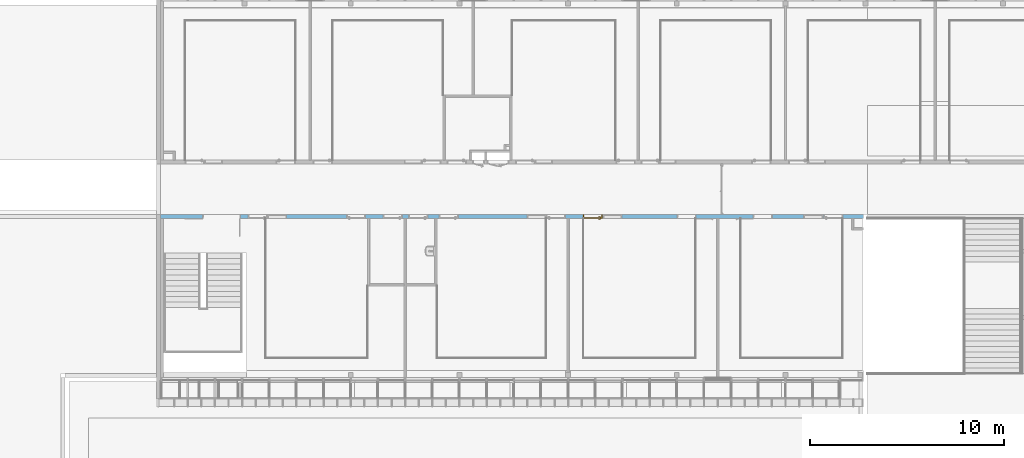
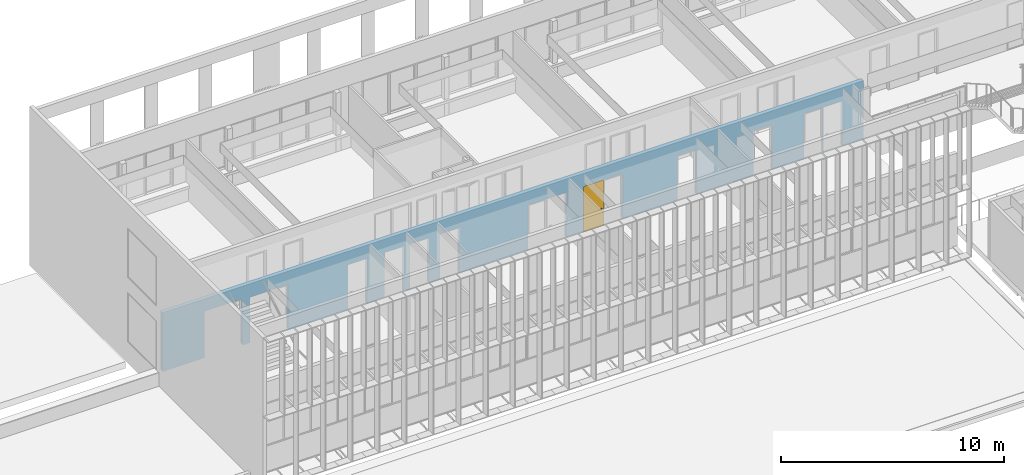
# One storey, part 44 of 106: 1 door, 15 openings, plus 1 element that does not belong to this part.
"""IFC2X3 building model written with IfcOpenShell, lengths in centimetres."""

from ifc_helpers import new_model, entity, si_unit, converted_unit, derived_unit, direction, frame, frame_2d, origin, place, context, subcontext, project, spatial, polyline, rectangle, extrude, clip, bounded_halfspace, faceted_brep, source, transform, mapped, material, material_list, layer, layer_set, layer_usage, type_object, type_shapes, element, fill, save


model = new_model("IFC2X3")

# Units and contexts
model_context = context("Model", 3, precision=0.001, world=origin(), true_north=direction((6.12303176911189e-17, 1.0)))
body_context = subcontext(model_context, "Body", "Model", "MODEL_VIEW")
ifc_project = project(units=[si_unit("LENGTHUNIT", "METRE", prefix="CENTI"), si_unit("AREAUNIT", "SQUARE_METRE"), si_unit("VOLUMEUNIT", "CUBIC_METRE"), converted_unit("PLANEANGLEUNIT", "DEGREE", entity("IfcRatioMeasure", 0.0174532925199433), si_unit("PLANEANGLEUNIT", "RADIAN"), dimensions=[0, 0, 0, 0, 0, 0, 0]), si_unit("MASSUNIT", "GRAM", prefix="KILO"), derived_unit("MASSDENSITYUNIT", [(si_unit("MASSUNIT", "GRAM", prefix="KILO"), 1), (si_unit("LENGTHUNIT", "METRE"), -3)]), si_unit("TIMEUNIT", "SECOND"), si_unit("FREQUENCYUNIT", "HERTZ"), si_unit("THERMODYNAMICTEMPERATUREUNIT", "DEGREE_CELSIUS"), derived_unit("THERMALTRANSMITTANCEUNIT", [(si_unit("MASSUNIT", "GRAM", prefix="KILO"), 1), (si_unit("THERMODYNAMICTEMPERATUREUNIT", "KELVIN"), -1), (si_unit("TIMEUNIT", "SECOND"), -3)]), derived_unit("VOLUMETRICFLOWRATEUNIT", [(si_unit("LENGTHUNIT", "METRE"), 3), (si_unit("TIMEUNIT", "SECOND"), -1)]), si_unit("ELECTRICCURRENTUNIT", "AMPERE"), si_unit("ELECTRICVOLTAGEUNIT", "VOLT"), si_unit("POWERUNIT", "WATT"), si_unit("FORCEUNIT", "NEWTON", prefix="KILO"), si_unit("ILLUMINANCEUNIT", "LUX"), si_unit("LUMINOUSFLUXUNIT", "LUMEN"), si_unit("LUMINOUSINTENSITYUNIT", "CANDELA"), derived_unit("USERDEFINED", [(si_unit("MASSUNIT", "GRAM", prefix="KILO"), -1), (si_unit("LENGTHUNIT", "METRE"), -2), (si_unit("TIMEUNIT", "SECOND"), 3), (si_unit("LUMINOUSFLUXUNIT", "LUMEN"), 1)]), derived_unit("LINEARVELOCITYUNIT", [(si_unit("LENGTHUNIT", "METRE"), 1), (si_unit("TIMEUNIT", "SECOND"), -1)]), si_unit("PRESSUREUNIT", "PASCAL"), derived_unit("USERDEFINED", [(si_unit("LENGTHUNIT", "METRE"), -2), (si_unit("MASSUNIT", "GRAM", prefix="KILO"), 1), (si_unit("TIMEUNIT", "SECOND"), -2)])], contexts=[model_context])

# Site, building, storey
site_placement = place(None, frame((-2781.94577612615, 7442.24238424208, 0.0)))
site = spatial("IfcSite", under=ifc_project, at=site_placement, Name="Default", CompositionType="ELEMENT")
building_placement = place(site_placement, origin())
building = spatial("IfcBuilding", under=site, at=building_placement, CompositionType="ELEMENT")
storey_placement = place(building_placement, frame((0.0, 0.0, 422.0)))
storey = spatial("IfcBuildingStorey", under=building, at=storey_placement, Name="Toiture - Cuisine", CompositionType="ELEMENT", Elevation=421.999999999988)

# Wall, openings, door
ifc_material_1 = material(Name="01 - Maçonnerie")
ifc_layer = layer(ifc_material_1, 20.0)
ifc_layer_set = layer_set([ifc_layer], Name="Mur de base:04 - Structure - béton - 20cm")
ifc_layer_usage = layer_usage(ifc_layer_set, "AXIS2", "NEGATIVE", 10.0)
wall_type = type_object("IfcWallType", Name="Mur de base:04 - Structure - béton - 20cm", PredefinedType="STANDARD", material=ifc_layer_set)
wall_placement = place(building_placement, frame((-4787.99987760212, -1100.0, 422.0), z_axis=(0.0, 0.0, 1.0), x_axis=(-1.0, 0.0, 0.0)))
wall = element("IfcWallStandardCase", 1, at=wall_placement, inside=storey, type_object=wall_type, material=ifc_layer_usage, Name="Mur de base:04 - Structure - béton - 20cm", ObjectType="Mur de base:04 - Structure - béton - 20cm", context=body_context, shape_type="Clipping", body=[
    clip(extrude(rectangle(XDim=3621.50000006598, YDim=20.0000000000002, at=frame_2d((1810.75000003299, 5.32907051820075e-14), x_axis=(-1.0, 0.0))), origin(), (0.0, 0.0, 1.0), 321.0), bounded_halfspace(frame((4.0, -10.0, 321.0), z_axis=(0.0, 0.0, -1.0), x_axis=(0.0, -1.0, 0.0)), True, frame((4.0, -10.0, 321.0)), polyline([(0.0, 0.0), (720.0, 0.0), (730.0, 0.0), (3617.50000006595, 0.0), (3617.50000006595, 20.0), (3602.20000006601, 20.0), (3077.50016406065, 20.0), (3075.50016406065, 20.0), (2550.5, 20.0), (2540.5, 20.0), (2362.50000003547, 20.0), (2352.50000003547, 20.0), (2203.5, 20.0), (2193.5, 20.0), (1632.5, 20.0), (1630.5, 20.0), (1522.50016406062, 20.0), (1512.50016406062, 20.0), (1440.5, 20.0), (1438.5, 20.0), (862.500000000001, 20.0), (860.5, 20.0), (750.500000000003, 20.0), (740.500000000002, 20.0), (630.500000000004, 20.0), (628.500000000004, 20.0), (104.500000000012, 20.0), (102.500000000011, 20.0), (56.0, 20.0), (46.0, 20.0), (0.0, 20.0), (0.0, 0.0)]))),
])
opening_1_placement = place(wall_placement, frame((3071.50016406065, -10.0, 0.0)))
element("IfcOpeningElement", 2, at=opening_1_placement, cuts=wall, Name="Int. Simple:PV (0.93m x 2.50m):1", ObjectType="Opening", context=body_context, shape_type="SweptSolid", body=[
    extrude(rectangle(XDim=248.500000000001, YDim=99.9999999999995, at=frame_2d((124.250000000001, 49.9999999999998), x_axis=(1.0, 0.0))), frame((0.0, 0.0, 0.0), z_axis=(0.0, 1.0, 0.0), x_axis=(0.0, 0.0, 1.0)), (0.0, 0.0, 1.0), 20.0),
])
opening_2_placement = place(wall_placement, frame((1534.5, -10.0, 0.0)))
element("IfcOpeningElement", 3, at=opening_2_placement, cuts=wall, Name="Int. Simple:PV (0.93m x 2.50m):1", ObjectType="Opening", context=body_context, shape_type="SweptSolid", body=[
    extrude(rectangle(XDim=248.500000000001, YDim=99.9999999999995, at=frame_2d((124.250000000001, 50.0), x_axis=(1.0, 0.0))), frame((0.0, 0.0, 0.0), z_axis=(0.0, 1.0, 0.0), x_axis=(0.0, 0.0, 1.0)), (0.0, 0.0, 1.0), 20.0),
])
opening_3_placement = place(wall_placement, frame((861.500000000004, -10.0, 0.0)))
element("IfcOpeningElement", 4, at=opening_3_placement, cuts=wall, Name="Int. Simple:PV (0.93m x 2.50m):1", ObjectType="Opening", context=body_context, shape_type="SweptSolid", body=[
    extrude(rectangle(XDim=248.500000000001, YDim=99.9999999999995, at=frame_2d((124.250000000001, 50.0), x_axis=(1.0, 0.0))), frame((0.0, 0.0, 0.0), z_axis=(0.0, 1.0, 0.0), x_axis=(0.0, 0.0, 1.0)), (0.0, 0.0, 1.0), 20.0),
])
opening_4_placement = place(wall_placement, frame((469.500000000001, -10.0, 0.0)))
element("IfcOpeningElement", 5, at=opening_4_placement, cuts=wall, Name="Int. Simple:PV (0.93m x 2.50m):1", ObjectType="Opening", context=body_context, shape_type="SweptSolid", body=[
    extrude(rectangle(XDim=248.500000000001, YDim=99.9999999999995, at=frame_2d((124.250000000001, 49.9999999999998), x_axis=(1.0, 0.0))), frame((0.0, 0.0, 0.0), z_axis=(0.0, 1.0, 0.0), x_axis=(0.0, 0.0, 1.0)), (0.0, 0.0, 1.0), 20.0),
])
opening_5_placement = place(wall_placement, frame((2971.50016406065, -10.0, 0.0)))
element("IfcOpeningElement", 6, at=opening_5_placement, cuts=wall, Name="châssis intérieur vitré:châssis intérieur vitré (h=270) R+1:1", ObjectType="Opening", context=body_context, shape_type="SweptSolid", body=[
    extrude(rectangle(XDim=250.0, YDim=99.9999999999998, at=frame_2d((125.0, 49.9999999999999), x_axis=(1.0, 0.0))), frame((0.0, 0.0, 0.0), z_axis=(0.0, 1.0, 0.0), x_axis=(0.0, 0.0, 1.0)), (0.0, 0.0, 1.0), 20.0),
])
opening_6_placement = place(wall_placement, frame((1634.50000000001, -10.0, 0.0)))
element("IfcOpeningElement", 7, at=opening_6_placement, cuts=wall, Name="châssis intérieur vitré:châssis intérieur vitré (h=270) R+1:1", ObjectType="Opening", context=body_context, shape_type="SweptSolid", body=[
    extrude(rectangle(XDim=250.0, YDim=99.9999999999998, at=frame_2d((125.0, 49.9999999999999), x_axis=(1.0, 0.0))), frame((0.0, 0.0, 0.0), z_axis=(0.0, 1.0, 0.0), x_axis=(0.0, 0.0, 1.0)), (0.0, 0.0, 1.0), 20.0),
])
opening_7_placement = place(wall_placement, frame((1243.0, -10.0, 0.0)))
element("IfcOpeningElement", 8, at=opening_7_placement, cuts=wall, Name="châssis intérieur vitré:châssis intérieur vitré (h=270) R+1:1", ObjectType="Opening", context=body_context, shape_type="SweptSolid", body=[
    extrude(rectangle(XDim=250.0, YDim=99.9999999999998, at=frame_2d((125.0, 49.9999999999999), x_axis=(1.0, 0.0))), frame((0.0, 0.0, 0.0), z_axis=(0.0, 1.0, 0.0), x_axis=(0.0, 0.0, 1.0)), (0.0, 0.0, 1.0), 20.0),
])
opening_8_placement = place(wall_placement, frame((208.0, -10.0, 0.0)))
element("IfcOpeningElement", 9, at=opening_8_placement, cuts=wall, Name="châssis intérieur vitré:châssis intérieur vitré (h=270) R+1:1", ObjectType="Opening", context=body_context, shape_type="SweptSolid", body=[
    extrude(rectangle(XDim=250.0, YDim=99.9999999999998, at=frame_2d((125.0, 49.9999999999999), x_axis=(1.0, 0.0))), frame((0.0, 0.0, 0.0), z_axis=(0.0, 1.0, 0.0), x_axis=(0.0, 0.0, 1.0)), (0.0, 0.0, 1.0), 20.0),
])
opening_9_placement = place(wall_placement, frame((2564.5, -10.0, 0.0)))
element("IfcOpeningElement", 10, at=opening_9_placement, cuts=wall, Name="Int. Simple:PV (0.93m x 2.50m):1", ObjectType="Opening", context=body_context, shape_type="SweptSolid", body=[
    extrude(rectangle(XDim=248.500000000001, YDim=99.9999999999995, at=frame_2d((124.250000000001, 50.0), x_axis=(1.0, 0.0))), frame((0.0, 0.0, 0.0), z_axis=(0.0, 1.0, 0.0), x_axis=(0.0, 0.0, 1.0)), (0.0, 0.0, 1.0), 20.0),
])
opening_10_placement = place(wall_placement, frame((2374.5, -10.0, 0.0)))
element("IfcOpeningElement", 11, at=opening_10_placement, cuts=wall, Name="Int. Simple:PP simple (0.93m x 2.50m):1", ObjectType="Opening", context=body_context, shape_type="SweptSolid", body=[
    extrude(rectangle(XDim=248.500000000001, YDim=99.9999999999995, at=frame_2d((124.250000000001, 49.9999999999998), x_axis=(1.0, 0.0))), frame((0.0, 0.0, 0.0), z_axis=(0.0, 1.0, 0.0), x_axis=(0.0, 0.0, 1.0)), (0.0, 0.0, 1.0), 20.0),
])
opening_11_placement = place(wall_placement, frame((2244.5, -10.0, 0.0)))
element("IfcOpeningElement", 12, at=opening_11_placement, cuts=wall, Name="Int. Simple:PP simple (0.93m x 2.50m):1", ObjectType="Opening", context=body_context, shape_type="SweptSolid", body=[
    extrude(rectangle(XDim=248.500000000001, YDim=99.9999999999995, at=frame_2d((124.250000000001, 49.9999999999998), x_axis=(1.0, 0.0))), frame((0.0, 0.0, 0.0), z_axis=(0.0, 1.0, 0.0), x_axis=(0.0, 0.0, 1.0)), (0.0, 0.0, 1.0), 20.0),
])
opening_12_placement = place(wall_placement, frame((2087.5, -10.0, 0.0)))
element("IfcOpeningElement", 13, at=opening_12_placement, cuts=wall, Name="Int. Simple:PV (0.93m x 2.50m):1", ObjectType="Opening", context=body_context, shape_type="SweptSolid", body=[
    extrude(rectangle(XDim=248.500000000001, YDim=99.9999999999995, at=frame_2d((124.250000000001, 49.9999999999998), x_axis=(1.0, 0.0))), frame((0.0, 0.0, 0.0), z_axis=(0.0, 1.0, 0.0), x_axis=(0.0, 0.0, 1.0)), (0.0, 0.0, 1.0), 20.0),
])
opening_13_placement = place(wall_placement, frame((1344.5, -10.0, 0.0)))
opening_13 = element("IfcOpeningElement", 14, at=opening_13_placement, cuts=wall, Name="Int. Simple:PV (0.93m x 2.50m):1", ObjectType="Opening", context=body_context, shape_type="SweptSolid", body=[
    extrude(rectangle(XDim=248.500000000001, YDim=99.9999999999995, at=frame_2d((124.250000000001, 49.9999999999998), x_axis=(1.0, 0.0))), frame((0.0, 0.0, 0.0), z_axis=(0.0, 1.0, 0.0), x_axis=(0.0, 0.0, 1.0)), (0.0, 0.0, 1.0), 20.0),
])
opening_14_placement = place(wall_placement, frame((106.500000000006, -10.0, 0.0)))
element("IfcOpeningElement", 15, at=opening_14_placement, cuts=wall, Name="Int. Simple:PV (0.93m x 2.50m):1", ObjectType="Opening", context=body_context, shape_type="SweptSolid", body=[
    extrude(rectangle(XDim=248.500000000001, YDim=99.9999999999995, at=frame_2d((124.250000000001, 50.0), x_axis=(1.0, 0.0))), frame((0.0, 0.0, 0.0), z_axis=(0.0, 1.0, 0.0), x_axis=(0.0, 0.0, 1.0)), (0.0, 0.0, 1.0), 20.0),
])
opening_15_placement = place(wall_placement, frame((3208.50000000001, -10.0, 0.0)))
element("IfcOpeningElement", 16, at=opening_15_placement, cuts=wall, Name="Int. Double:PP (1.90m x 2.50m):1", ObjectType="Opening", context=body_context, shape_type="SweptSolid", body=[
    extrude(rectangle(XDim=253.500000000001, YDim=197.0, at=frame_2d((126.750000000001, 98.5), x_axis=(1.0, 0.0))), frame((0.0, 0.0, 0.0), z_axis=(0.0, 1.0, 0.0), x_axis=(0.0, 0.0, 1.0)), (0.0, 0.0, 1.0), 20.0),
])
ifc_material_2 = material(Name="Finition Peinture - Blanc satiné")
ifc_material_3 = material(Name="Bois - Panneau de porte")
ifc_material_4 = material(Name="Bois - Cadre de porte")
ifc_material_list_1 = material_list([ifc_material_2, ifc_material_3, ifc_material_4])
ifc_material_list_2 = material_list([ifc_material_2, ifc_material_3, ifc_material_4])
door_style = type_object("IfcDoorStyle", Name="PV (0.93m x 2.50m)", ConstructionType="NOTDEFINED", OperationType="SINGLE_SWING_RIGHT", ParameterTakesPrecedence=False, Sizeable=False, material=ifc_material_list_2)
shared_shape = source(origin(), body_context, "Body", "Brep", [
    faceted_brep([(99.5000000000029, -0.500000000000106, 87.0), (99.5000000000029, -0.500000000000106, 108.0), (98.535276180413, -0.500000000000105, 108.399601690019), (97.5000000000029, -0.500000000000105, 108.535898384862), (96.4647238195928, -0.500000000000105, 108.399601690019), (95.500000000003, -0.500000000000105, 108.0), (95.5000000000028, -0.500000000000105, 87.0), (96.4647238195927, -0.500000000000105, 86.6003983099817), (97.5000000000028, -0.500000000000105, 86.464101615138), (98.5352761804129, -0.500000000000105, 86.6003983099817), (99.5000000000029, 0.0, 108.0), (99.5000000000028, 0.0, 87.0), (98.5352761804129, 0.0, 86.6003983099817), (97.5000000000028, 0.0, 86.464101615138), (96.4647238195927, 0.0, 86.6003983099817), (95.5000000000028, 0.0, 87.0), (95.5000000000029, 0.0, 108.0), (96.4647238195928, 0.0, 108.399601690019), (97.5000000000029, 0.0, 108.535898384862), (98.535276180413, 0.0, 108.399601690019)], [[[0, 1, 2, 3, 4, 5, 6, 7, 8, 9]], [[10, 11, 12, 13, 14, 15, 16, 17, 18, 19]], [[9, 12, 11, 0]], [[8, 13, 12, 9]], [[7, 14, 13, 8]], [[7, 6, 15, 14]], [[15, 6, 5, 16]], [[4, 17, 16, 5]], [[3, 18, 17, 4]], [[2, 19, 18, 3]], [[2, 1, 10, 19]], [[11, 10, 1, 0]]]),
    faceted_brep([(99.5000000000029, 4.0, 87.0), (99.5000000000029, 4.0, 108.0), (98.535276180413, 4.0, 108.399601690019), (97.5000000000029, 4.0, 108.535898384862), (96.4647238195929, 4.0, 108.399601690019), (95.500000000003, 4.0, 108.0), (95.5000000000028, 4.0, 87.0), (96.4647238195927, 4.0, 86.6003983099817), (97.5000000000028, 4.0, 86.464101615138), (98.5352761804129, 4.0, 86.6003983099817), (97.5000000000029, 4.49999999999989, 108.535898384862), (98.535276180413, 4.49999999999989, 108.399601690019), (99.5000000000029, 4.49999999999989, 108.0), (99.5000000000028, 4.49999999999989, 87.0), (98.5352761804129, 4.49999999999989, 86.6003983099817), (97.5000000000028, 4.49999999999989, 86.464101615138), (96.4647238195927, 4.49999999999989, 86.6003983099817), (95.5000000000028, 4.49999999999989, 87.0), (95.500000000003, 4.49999999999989, 108.0), (96.4647238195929, 4.49999999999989, 108.399601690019)], [[[0, 1, 2, 3, 4, 5, 6, 7, 8, 9]], [[10, 11, 12, 13, 14, 15, 16, 17, 18, 19]], [[4, 19, 18, 5]], [[3, 10, 19, 4]], [[2, 11, 10, 3]], [[2, 1, 12, 11]], [[13, 12, 1, 0]], [[9, 14, 13, 0]], [[8, 15, 14, 9]], [[7, 16, 15, 8]], [[7, 6, 17, 16]], [[17, 6, 5, 18]]]),
    faceted_brep([(97.2974701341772, -0.500000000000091, 100.778044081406), (97.7025298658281, -0.500000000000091, 100.778044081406), (98.1000000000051, -0.500000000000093, 100.699999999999), (98.100000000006, -0.500000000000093, 99.2999999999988), (97.7025298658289, -0.500000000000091, 99.221955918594), (97.297470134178, -0.500000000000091, 99.2219559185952), (96.9000000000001, -0.500000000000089, 99.3000000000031), (96.9000000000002, -0.500000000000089, 100.7), (97.7025298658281, -3.10045754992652, 100.778044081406), (98.1000000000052, -3.26509507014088, 100.7), (97.2974701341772, -2.93267631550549, 100.778044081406), (95.9298602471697, -4.30028620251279, 100.778044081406), (96.0976414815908, -4.70534593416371, 100.778044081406), (96.9000000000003, -2.76803879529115, 100.7), (96.9000000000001, -2.76803879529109, 99.3000000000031), (97.297470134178, -2.93267631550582, 99.2219559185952), (97.7025298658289, -3.10045754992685, 99.221955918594), (96.0976414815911, -4.70534593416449, 99.221955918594), (95.9298602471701, -4.30028620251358, 99.2219559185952), (98.100000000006, -3.26509507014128, 99.2999999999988), (96.2622790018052, -5.1028160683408, 100.7), (95.7652227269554, -3.90281606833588, 100.7), (95.7652227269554, -3.90281606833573, 99.3000000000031), (96.2622790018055, -5.10281606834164, 99.2999999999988), (87.4981359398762, -5.10281606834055, 100.7), (87.4981359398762, -4.70534593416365, 100.778044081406), (87.4981359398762, -4.30028620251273, 100.778044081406), (87.4981359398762, -3.90281606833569, 100.699999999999), (87.4981359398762, -3.90281606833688, 99.3000000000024), (87.4981359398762, -4.30028620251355, 99.2219559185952), (87.4981359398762, -4.70534593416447, 99.221955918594), (87.4981359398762, -5.10281606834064, 99.2999999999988), (91.7139980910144, -4.5028160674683, 100.78786867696), (92.2692302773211, -5.1028160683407, 100.7), (91.6316793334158, -3.9028160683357, 100.7), (91.631679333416, -3.90281606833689, 99.3000000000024), (91.7139981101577, -4.50281607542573, 99.2121313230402), (92.2692310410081, -5.10281606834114, 99.2999999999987)], [[[0, 1, 2, 3, 4, 5, 6, 7]], [[2, 1, 8, 9]], [[1, 0, 10, 11, 12, 8]], [[0, 7, 13, 10]], [[14, 13, 7, 6]], [[5, 15, 14, 6]], [[5, 4, 16, 17, 18, 15]], [[3, 19, 16, 4]], [[9, 19, 3, 2]], [[9, 8, 12, 20]], [[10, 13, 21, 11]], [[22, 21, 13, 14]], [[14, 15, 18, 22]], [[16, 19, 23, 17]], [[20, 23, 19, 9]], [[24, 25, 26, 27, 28, 29, 30, 31]], [[32, 25, 33]], [[33, 25, 24]], [[33, 20, 12]], [[11, 34, 32]], [[34, 11, 21]], [[27, 26, 34]], [[32, 26, 25]], [[32, 34, 26]], [[32, 33, 12]], [[11, 32, 12]], [[21, 22, 35, 28, 27, 34]], [[36, 29, 35]], [[30, 36, 37]], [[18, 35, 22]], [[29, 28, 35]], [[30, 37, 31]], [[37, 17, 23]], [[36, 17, 37]], [[36, 18, 17]], [[36, 35, 18]], [[29, 36, 30]], [[23, 20, 33, 24, 31, 37]]]),
    faceted_brep([(97.2974701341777, 4.49999999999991, 99.2219559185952), (97.7025298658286, 4.49999999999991, 99.221955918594), (98.1000000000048, 4.4999999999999, 99.2999999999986), (98.1000000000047, 4.4999999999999, 100.7), (97.7025298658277, 4.49999999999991, 100.778044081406), (97.2974701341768, 4.49999999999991, 100.778044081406), (96.8999999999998, 4.49999999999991, 100.7), (96.900000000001, 4.49999999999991, 99.3000000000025), (96.8999999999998, 6.7485204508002, 100.7), (96.8999999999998, 6.74852045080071, 99.3000000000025), (97.2974701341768, 6.91315797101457, 100.778044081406), (97.7025298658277, 7.0809392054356, 100.778044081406), (96.0838906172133, 8.69957845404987, 100.778044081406), (95.9161093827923, 8.29451872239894, 100.778044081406), (98.1000000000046, 7.24557672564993, 100.7), (98.1000000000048, 7.24557672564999, 99.2999999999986), (97.7025298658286, 7.08093920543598, 99.221955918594), (97.2974701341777, 6.91315797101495, 99.2219559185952), (95.9161093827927, 8.29451872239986, 99.2219559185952), (96.0838906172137, 8.69957845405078, 99.221955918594), (95.751471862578, 7.89704858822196, 100.7), (95.7514718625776, 7.89704858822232, 99.3000000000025), (96.2485281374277, 9.09704858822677, 100.7), (96.2485281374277, 9.09704858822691, 99.2999999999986), (87.4954216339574, 8.29451872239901, 100.778044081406), (87.4954216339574, 8.69957845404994, 100.778044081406), (87.4954216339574, 9.09704858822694, 100.7), (87.4954216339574, 9.09704858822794, 99.2999999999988), (87.4954216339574, 8.6995784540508, 99.221955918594), (87.4954216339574, 8.29451872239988, 99.2219559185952), (87.4954216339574, 7.89704858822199, 99.3000000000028), (87.4954216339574, 7.89704858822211, 100.7), (91.6234467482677, 7.89704858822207, 100.7), (91.6234479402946, 7.89704858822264, 99.3000000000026), (91.7057655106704, 8.49704858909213, 100.78786867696), (92.255479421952, 9.09704858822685, 100.7), (92.2554795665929, 9.09704858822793, 99.2999999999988), (91.7057654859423, 8.49704858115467, 99.2121313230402)], [[[0, 1, 2, 3, 4, 5, 6, 7]], [[8, 9, 7, 6]], [[5, 10, 8, 6]], [[5, 4, 11, 12, 13, 10]], [[3, 14, 11, 4]], [[14, 3, 2, 15]], [[2, 1, 16, 15]], [[1, 0, 17, 18, 19, 16]], [[0, 7, 9, 17]], [[20, 21, 9, 8]], [[8, 10, 13, 20]], [[14, 22, 12, 11]], [[23, 22, 14, 15]], [[15, 16, 19, 23]], [[17, 9, 21, 18]], [[24, 25, 26, 27, 28, 29, 30, 31]], [[21, 20, 32, 31, 30, 33]], [[34, 24, 32]], [[25, 34, 35]], [[13, 32, 20]], [[24, 31, 32]], [[25, 35, 26]], [[35, 12, 22]], [[34, 12, 35]], [[34, 13, 12]], [[34, 32, 13]], [[24, 34, 25]], [[22, 23, 36, 27, 26, 35]], [[37, 28, 36]], [[36, 28, 27]], [[36, 23, 19]], [[18, 33, 37]], [[33, 18, 21]], [[30, 29, 33]], [[37, 29, 28]], [[37, 33, 29]], [[37, 36, 19]], [[18, 37, 19]]]),
    faceted_brep([(103.500000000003, 4.0, 245.0), (103.500000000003, 4.0, 0.0), (10.5000000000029, 4.0, 0.0), (10.5000000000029, 4.0, 245.0), (103.500000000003, 0.0, 245.0), (10.5000000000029, 0.0, 245.0), (10.5000000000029, 0.0, 0.0), (103.500000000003, 0.0, 0.0)], [[[0, 1, 2, 3]], [[4, 5, 6, 7]], [[3, 5, 4, 0]], [[2, 6, 5, 3]], [[1, 7, 6, 2]], [[0, 4, 7, 1]]]),
    faceted_brep([(107.0, 20.0, 0.0), (107.0, 0.0, 0.0), (108.500000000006, 0.0, 0.0), (108.500000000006, -0.500000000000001, 0.0), (103.500000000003, -0.500000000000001, 0.0), (103.500000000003, 4.0, 0.0), (102.0, 4.0, 0.0), (102.0, 20.5000000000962, 0.0), (108.500000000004, 20.5000000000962, 0.0), (108.500000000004, 20.0, 0.0), (108.500000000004, 20.0, 250.0), (5.50000000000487, 20.0, 250.0), (5.50000000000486, 20.0, 0.0), (7.0, 20.0, 0.0), (7.0, 20.0, 248.500000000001), (107.0, 20.0, 248.500000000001), (108.500000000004, 20.5000000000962, 250.0), (102.0, 20.5000000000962, 243.5), (12.0, 20.5000000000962, 243.5), (12.0, 20.5000000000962, 0.0), (5.50000000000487, 20.5000000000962, 0.0), (5.50000000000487, 20.5000000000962, 250.0), (102.0, 4.0, 243.5), (103.500000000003, 4.0, 245.0), (10.5000000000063, 4.0, 245.0), (10.5000000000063, 4.0, 0.0), (12.0, 4.0, 0.0), (12.0, 4.0, 243.5), (103.500000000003, -0.500000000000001, 245.0), (108.500000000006, -0.500000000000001, 250.0), (5.5000000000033, -0.500000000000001, 250.0), (5.50000000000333, -0.500000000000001, 0.0), (10.5000000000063, -0.500000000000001, 0.0), (10.5000000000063, -0.500000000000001, 245.0), (108.500000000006, 0.0, 250.0), (107.0, 0.0, 248.500000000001), (7.0, 0.0, 248.500000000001), (7.0, 0.0, 0.0), (5.5000000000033, 0.0, 0.0), (5.50000000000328, 0.0, 250.0)], [[[0, 1, 2, 3, 4, 5, 6, 7, 8, 9]], [[9, 10, 11, 12, 13, 14, 15, 0]], [[8, 16, 10, 9]], [[7, 17, 18, 19, 20, 21, 16, 8]], [[7, 6, 22, 17]], [[5, 23, 24, 25, 26, 27, 22, 6]], [[5, 4, 28, 23]], [[3, 29, 30, 31, 32, 33, 28, 4]], [[2, 34, 29, 3]], [[1, 35, 36, 37, 38, 39, 34, 2]], [[0, 15, 35, 1]], [[14, 13, 37, 36]], [[13, 12, 20, 19, 26, 25, 32, 31, 38, 37]], [[21, 20, 12, 11]], [[27, 26, 19, 18]], [[33, 32, 25, 24]], [[39, 38, 31, 30]], [[16, 21, 11, 10]], [[22, 27, 18, 17]], [[28, 33, 24, 23]], [[34, 39, 30, 29]], [[15, 14, 36, 35]]]),
])
type_shapes(door_style, [shared_shape])
door_placement = place(opening_13_placement, frame((107.0, 20.0, 0.0), z_axis=(0.0, 0.0, 1.0), x_axis=(-1.0, 0.0, 0.0)))
door = element("IfcDoor", 17, at=door_placement, inside=storey, type_object=door_style, material=ifc_material_list_1, Name="Int. Simple:PV (0.93m x 2.50m)", ObjectType="Int. Simple:PV (0.93m x 2.50m)", OverallHeight=248.500000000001, OverallWidth=99.9999999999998, context=body_context, shape_type="MappedRepresentation", body=[
    mapped(shared_shape, transform((0.0, 0.0, 0.0), scale=1.0)),
])
fill(opening_13, door)

save(model, "model.ifc")
